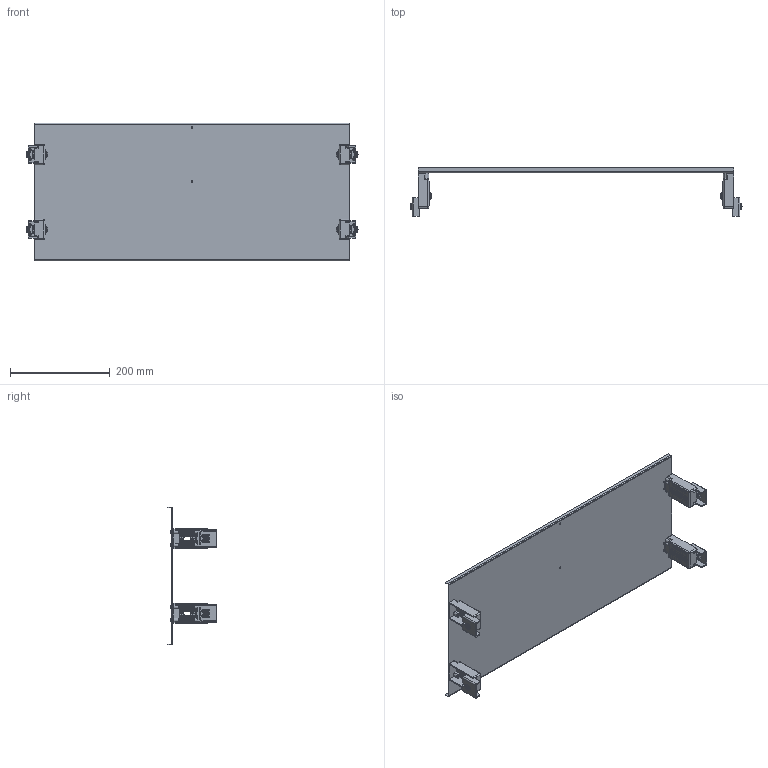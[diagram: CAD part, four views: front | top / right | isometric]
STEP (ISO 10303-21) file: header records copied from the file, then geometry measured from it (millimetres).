
FILE_DESCRIPTION(/* description */ (''),/* implementation_level */ '2;1');
FILE_NAME(/* name */ '4005132.stp',/* time_stamp */ '2019-03-01T17:24:00+01:00',/* author */ (''),/* organization */ (''),/* preprocessor_version */ 'ST-DEVELOPER v16.7',/* originating_system */ 'SIEMENS PLM Software NX 12.0',/* authorisation */ '');
FILE_SCHEMA (('AUTOMOTIVE_DESIGN { 1 0 10303 214 3 1 1 1 }'));
Products named in the file (1): bsom23CC53FBq5sv
Bounding box: 664.73 x 97.1 x 276 mm (x, y, z)
Volume: 397842.4 mm3; surface area: 481830.7 mm2
Topology: 29 solids, 29 shells, 3056 faces, 8112 edges, 5088 vertices
Faces by surface type: plane 1590, cylinder 922, bspline 184, torus 160, sphere 136, cone 64
Full cylindrical faces by diameter (mm): 2.75 x2, 3 x8, 3.2 x8, 3.4 x16, 4 x8, 4.2 x8, 5 x4, 6 x8, 6.2 x4, 7.2 x8, 12 x8
Entity records: 97839 total; most frequent: CARTESIAN_POINT 23229, DIRECTION 15514, ORIENTED_EDGE 15504, EDGE_CURVE 7752, AXIS2_PLACEMENT_3D 5357, VERTEX_POINT 4996, LINE 4800, VECTOR 4800
